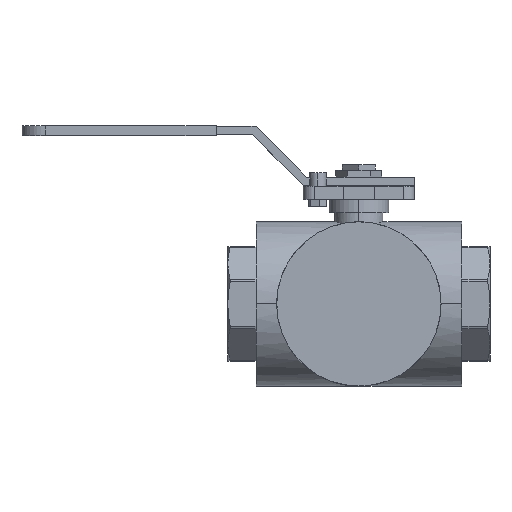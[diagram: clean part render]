
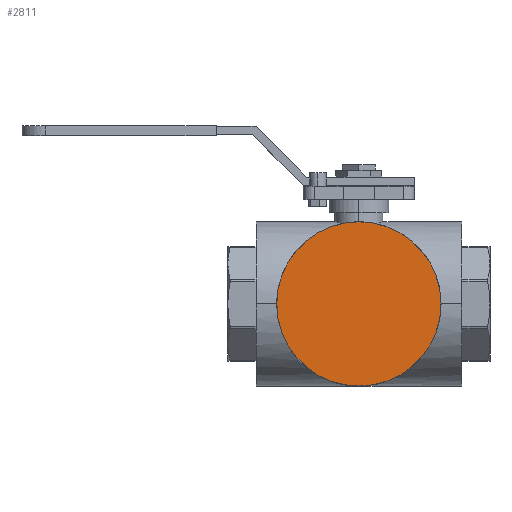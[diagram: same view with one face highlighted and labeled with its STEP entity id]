
A CAD part, top view. The second image highlights one B-rep face of the part: STEP entity #2811.
In plain terms, the highlighted planar face has unit normal (0, 0, 1).
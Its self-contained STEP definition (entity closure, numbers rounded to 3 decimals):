
#164 = EDGE_CURVE ( 'NONE', #5725, #5990, #5126, .T. ) ;
#386 = CARTESIAN_POINT ( 'NONE',  ( 0., 0., 49.5 ) ) ;
#389 = AXIS2_PLACEMENT_3D ( 'NONE', #386, #6604, #3034 ) ;
#804 = AXIS2_PLACEMENT_3D ( 'NONE', #4231, #1093, #4752 ) ;
#1093 = DIRECTION ( 'NONE',  ( 0., 0., 1. ) ) ;
#1790 = ORIENTED_EDGE ( 'NONE', *, *, #4278, .T. ) ;
#1823 = DIRECTION ( 'NONE',  ( 0., 0., -1. ) ) ;
#2087 = EDGE_LOOP ( 'NONE', ( #1790, #5868 ) ) ;
#2293 = CIRCLE ( 'NONE', #804, 49.5 ) ;
#2811 = ADVANCED_FACE ( 'NONE', ( #4251 ), #6447, .F. ) ;
#3034 = DIRECTION ( 'NONE',  ( 1., 0., 0. ) ) ;
#4109 = CARTESIAN_POINT ( 'NONE',  ( 49.5, 0., 49.5 ) ) ;
#4231 = CARTESIAN_POINT ( 'NONE',  ( 0., 0., 49.5 ) ) ;
#4251 = FACE_OUTER_BOUND ( 'NONE', #2087, .T. ) ;
#4278 = EDGE_CURVE ( 'NONE', #5990, #5725, #2293, .T. ) ;
#4752 = DIRECTION ( 'NONE',  ( 1., 0., 0. ) ) ;
#4950 = CARTESIAN_POINT ( 'NONE',  ( 0., 49.5, 49.5 ) ) ;
#5069 = AXIS2_PLACEMENT_3D ( 'NONE', #4950, #1823, #5438 ) ;
#5126 = CIRCLE ( 'NONE', #389, 49.5 ) ;
#5438 = DIRECTION ( 'NONE',  ( -1., 0., 0. ) ) ;
#5725 = VERTEX_POINT ( 'NONE', #4109 ) ;
#5868 = ORIENTED_EDGE ( 'NONE', *, *, #164, .T. ) ;
#5990 = VERTEX_POINT ( 'NONE', #6313 ) ;
#6313 = CARTESIAN_POINT ( 'NONE',  ( -49.5, 0., 49.5 ) ) ;
#6447 = PLANE ( 'NONE',  #5069 ) ;
#6604 = DIRECTION ( 'NONE',  ( 0., 0., 1. ) ) ;
